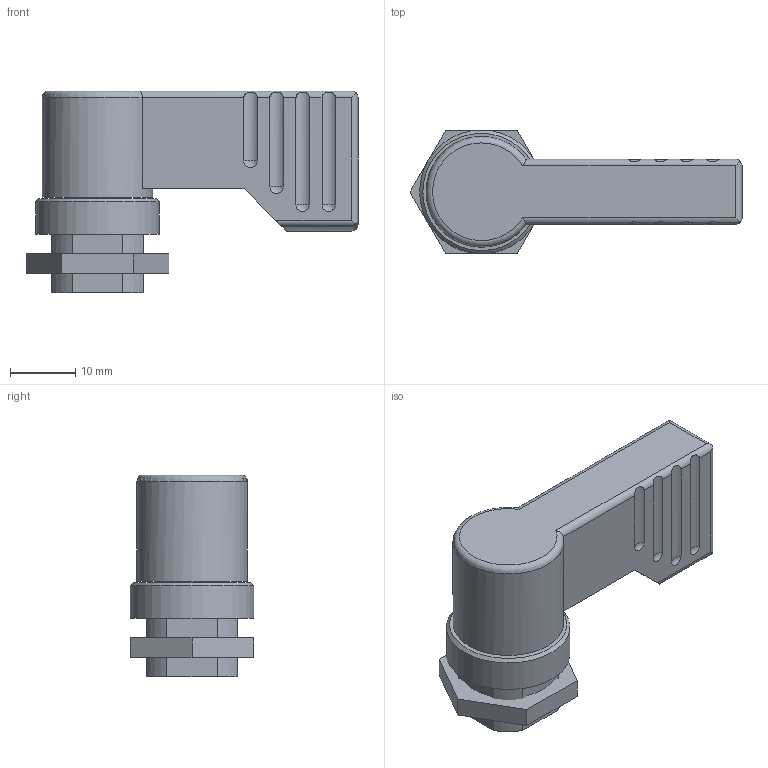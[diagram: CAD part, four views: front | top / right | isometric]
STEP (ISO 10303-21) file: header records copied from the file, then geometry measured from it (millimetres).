
FILE_DESCRIPTION(/* description */ ('STEP AP214'),/* implementation_level */ '2;1');
FILE_NAME(/* name */ 'Stop Lock GN 702-17-40-C-SW (0)',/* time_stamp */ '2024-10-01T09:59:32+02:00',/* author */ ('License CC BY-ND 4.0'),/* organization */ ('CADENAS'),/* preprocessor_version */ 'ST-DEVELOPER v19.3',/* originating_system */ 'PARTsolutions',/* authorisation */ ' ');
FILE_SCHEMA (('AUTOMOTIVE_DESIGN {1 0 10303 214 3 1 1}'));
Length unit declared in the file: millimetre
Products named in the file (4): Stop Lock GN 702-17-40-C-SW (0); Stop Lock GN 702-17-40-C-SW-2; Stop Lock GN 702-17-40-C-SW-1; Stop Lock GN 702-17-40-C-SW-3
Assembly tree (3 placements, depth 2):
  Stop Lock GN 702-17-40-C-SW (0)
    Stop Lock GN 702-17-40-C-SW-2
    Stop Lock GN 702-17-40-C-SW-1
    Stop Lock GN 702-17-40-C-SW-3
Bounding box: 50.97 x 19 x 31 mm (x, y, z)
Volume: 12891.2 mm3; surface area: 5404.3 mm2
Topology: 3 solids, 3 shells, 68 faces, 162 edges, 107 vertices
Faces by surface type: cylinder 29, plane 28, sphere 8, torus 2, cone 1
Full cylindrical faces by diameter (mm): 9 x2, 10 x4, 14.917 x1, 17 x1, 19 x1
Entity records: 2067 total; most frequent: CARTESIAN_POINT 397, DIRECTION 339, ORIENTED_EDGE 302, EDGE_CURVE 151, AXIS2_PLACEMENT_3D 130, VERTEX_POINT 106, EDGE_LOOP 87, FACE_BOUND 87
